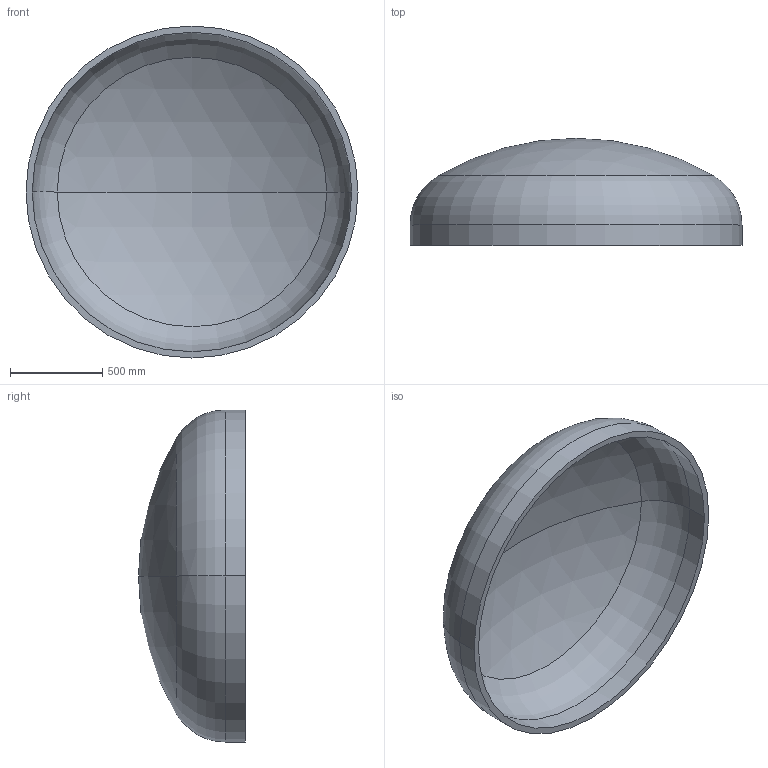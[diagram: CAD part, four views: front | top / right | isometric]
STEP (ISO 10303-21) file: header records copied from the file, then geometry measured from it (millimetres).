
FILE_DESCRIPTION (( 'STEP AP203' ), '1' );
FILE_NAME ('DIN 28013 Korbbogenform_-_Boden DIN 28013 - 1800 x 110 - I - s=34.step', '2016-07-01T12:27:14', ( '' ), ( '' ), 'SwSTEP 2.0', 'SolidWorks 2013', '' );
FILE_SCHEMA (( 'CONFIG_CONTROL_DESIGN' ));
Length unit declared in the file: millimetre
Products named in the file (1): DIN 28013 Korbbogenform_-_Boden DIN 28013 - 1800 x 110 - I - s=34
Bounding box: 1800 x 580.04 x 1800 mm (x, y, z)
Volume: 137448723.7 mm3; surface area: 8276271.3 mm2
Topology: 1 solids, 1 shells, 13 faces, 24 edges, 14 vertices
Faces by surface type: torus 4, cylinder 4, sphere 4, plane 1
Entity records: 407 total; most frequent: DIRECTION 72, CARTESIAN_POINT 52, ORIENTED_EDGE 48, AXIS2_PLACEMENT_3D 34, EDGE_CURVE 24, CIRCLE 20, EDGE_LOOP 14, VERTEX_POINT 14
